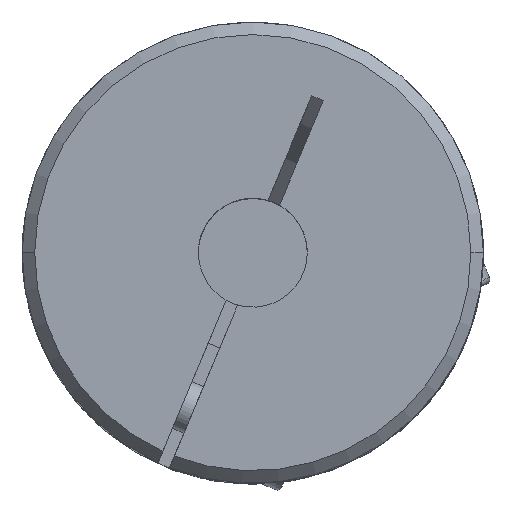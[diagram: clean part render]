
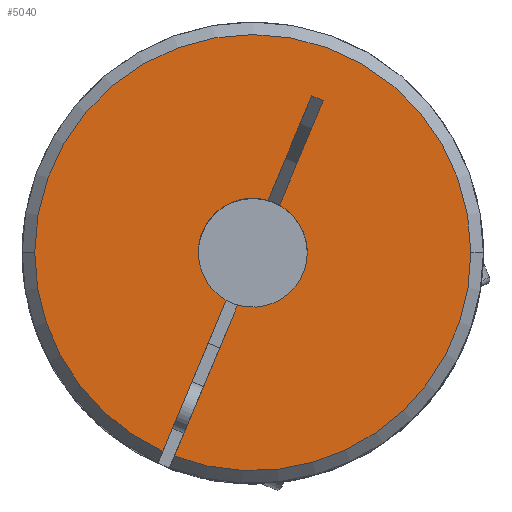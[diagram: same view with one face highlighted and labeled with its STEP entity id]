
A CAD part, top view. The second image highlights one B-rep face of the part: STEP entity #5040.
In plain terms, the highlighted planar face has unit normal (0, 0, 1).
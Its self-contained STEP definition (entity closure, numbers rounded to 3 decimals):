
#346=CARTESIAN_POINT('',(0.,0.,39.));
#347=DIRECTION('',(0.,0.,1.));
#348=DIRECTION('',(-1.,0.,0.));
#349=AXIS2_PLACEMENT_3D('',#346,#347,#348);
#351=CARTESIAN_POINT('',(0.,0.,39.));
#352=DIRECTION('',(0.,0.,1.));
#353=DIRECTION('',(1.,0.,0.));
#354=AXIS2_PLACEMENT_3D('',#351,#352,#353);
#356=CARTESIAN_POINT('',(0.,0.,39.));
#357=DIRECTION('',(0.,0.,1.));
#358=DIRECTION('',(-0.36,-0.933,0.));
#359=AXIS2_PLACEMENT_3D('',#356,#357,#358);
#361=DIRECTION('',(0.922,-0.387,0.));
#362=VECTOR('',#361,1.5);
#363=CARTESIAN_POINT('',(7.033,18.703,39.));
#364=LINE('',#363,#362);
#365=CARTESIAN_POINT('',(0.,0.,39.));
#366=DIRECTION('',(0.,0.,-1.));
#367=DIRECTION('',(-0.491,-0.871,0.));
#368=AXIS2_PLACEMENT_3D('',#365,#366,#367);
#393=DIRECTION('',(0.387,0.922,0.));
#394=VECTOR('',#393,19.533);
#395=CARTESIAN_POINT('',(-10.745,-23.676,39.));
#396=LINE('',#395,#394);
#406=DIRECTION('',(0.387,0.922,0.));
#407=VECTOR('',#406,13.511);
#408=CARTESIAN_POINT('',(1.806,6.244,39.));
#409=LINE('',#408,#407);
#486=DIRECTION('',(-0.387,-0.922,0.));
#487=VECTOR('',#486,19.533);
#488=CARTESIAN_POINT('',(-1.806,-6.244,39.));
#489=LINE('',#488,#487);
#495=DIRECTION('',(-0.387,-0.922,0.));
#496=VECTOR('',#495,13.511);
#497=CARTESIAN_POINT('',(8.416,18.123,39.));
#498=LINE('',#497,#496);
#503=CARTESIAN_POINT('',(0.,0.,39.));
#504=DIRECTION('',(0.,0.,-1.));
#505=DIRECTION('',(0.491,0.871,0.));
#506=AXIS2_PLACEMENT_3D('',#503,#504,#505);
#4265=CARTESIAN_POINT('',(7.033,18.703,39.));
#4266=CARTESIAN_POINT('',(8.416,18.123,39.));
#4267=VERTEX_POINT('',#4265);
#4268=VERTEX_POINT('',#4266);
#4484=CARTESIAN_POINT('',(26.,0.,39.));
#4485=CARTESIAN_POINT('',(-26.,0.,39.));
#4486=VERTEX_POINT('',#4484);
#4487=VERTEX_POINT('',#4485);
#4490=CARTESIAN_POINT('',(-10.745,-23.676,39.));
#4491=VERTEX_POINT('',#4490);
#4642=CARTESIAN_POINT('',(-9.362,-24.256,39.));
#4643=VERTEX_POINT('',#4642);
#4688=CARTESIAN_POINT('',(-1.806,-6.244,39.));
#4690=VERTEX_POINT('',#4688);
#4697=CARTESIAN_POINT('',(3.189,5.664,39.));
#4698=VERTEX_POINT('',#4697);
#4699=CARTESIAN_POINT('',(-3.189,-5.664,39.));
#4700=VERTEX_POINT('',#4699);
#4701=CARTESIAN_POINT('',(1.806,6.244,39.));
#4702=VERTEX_POINT('',#4701);
#5014=CARTESIAN_POINT('',(0.,0.,39.));
#5015=DIRECTION('',(0.,0.,1.));
#5016=DIRECTION('',(1.,0.,0.));
#5017=AXIS2_PLACEMENT_3D('',#5014,#5015,#5016);
#5018=PLANE('',#5017);
#5020=ORIENTED_EDGE('',*,*,#5019,.F.);
#5022=ORIENTED_EDGE('',*,*,#5021,.F.);
#5023=ORIENTED_EDGE('',*,*,#5004,.F.);
#5025=ORIENTED_EDGE('',*,*,#5024,.F.);
#5027=ORIENTED_EDGE('',*,*,#5026,.F.);
#5029=ORIENTED_EDGE('',*,*,#5028,.F.);
#5031=ORIENTED_EDGE('',*,*,#5030,.F.);
#5033=ORIENTED_EDGE('',*,*,#5032,.F.);
#5035=ORIENTED_EDGE('',*,*,#5034,.F.);
#5037=ORIENTED_EDGE('',*,*,#5036,.F.);
#5038=EDGE_LOOP('',(#5020,#5022,#5023,#5025,#5027,#5029,#5031,#5033,#5035,
#5037));
#5039=FACE_OUTER_BOUND('',#5038,.F.);
#350=CIRCLE('',#349,26.);
#355=CIRCLE('',#354,26.);
#360=CIRCLE('',#359,26.);
#369=CIRCLE('',#368,6.5);
#507=CIRCLE('',#506,6.5);
#5004=EDGE_CURVE('',#4487,#4491,#350,.T.);
#5019=EDGE_CURVE('',#4700,#4702,#369,.T.);
#5021=EDGE_CURVE('',#4491,#4700,#396,.T.);
#5024=EDGE_CURVE('',#4486,#4487,#355,.T.);
#5026=EDGE_CURVE('',#4643,#4486,#360,.T.);
#5028=EDGE_CURVE('',#4690,#4643,#489,.T.);
#5030=EDGE_CURVE('',#4698,#4690,#507,.T.);
#5032=EDGE_CURVE('',#4268,#4698,#498,.T.);
#5034=EDGE_CURVE('',#4267,#4268,#364,.T.);
#5036=EDGE_CURVE('',#4702,#4267,#409,.T.);
#5040=ADVANCED_FACE('',(#5039),#5018,.T.);
